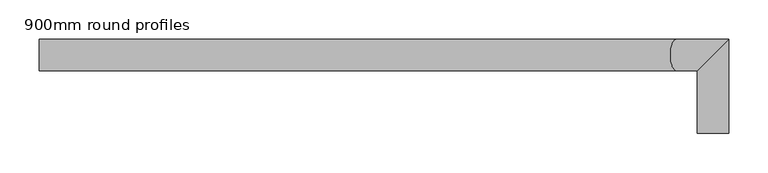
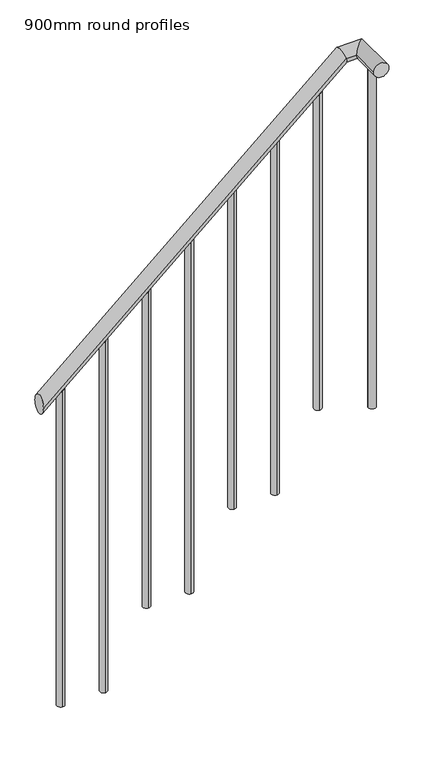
"""IFC4 building model written with IfcOpenShell, lengths in millimetres: railing geometry, 900mm round profiles."""

from ifc_helpers import new_model, si_unit, point, frame, frame_2d, origin, origin_with_axes, place, context, project, spatial, circle_curve, ellipse_curve, trimmed, segment, composite_curve, outline, extrude, source, transform, mapped, element, save
from ifc_brep_helpers import plane_surface, cylinder_surface, advanced_brep


def railing_900mm_round_profiles_b70d091b(model_context):
    return source(origin(), model_context, "Body", "SolidModel", [
        advanced_brep(
        [(7110.0, 5880.0, 273.4960858), (7110.0, 5840.0, 273.4960858), (7922.4795013, 5880.0, 980.0), (7922.4795013, 5840.0, 980.0), (7990.0, 5880.0, 980.0), (7950.0, 5840.0, 980.0), (7990.0, 5760.0, 980.0), (7950.0, 5760.0, 980.0)],
        [
            (0, 1, ellipse_curve(frame((7110.0, 5860.0, 273.4960858), z_axis=(-1.0, 0.0, 0.0), x_axis=(0.0, 0.0, -1.0)), 26.5039142, 20.0)),
            (1, 0, ellipse_curve(frame((7110.0, 5860.0, 273.4960858), z_axis=(-1.0, 0.0, 0.0), x_axis=(0.0, 0.0, -1.0)), 26.5039142, 20.0)),
            (0, 2),
            (2, 3, ellipse_curve(frame((7922.4795013, 5860.0, 980.0), z_axis=(-0.9366444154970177, 0.0, -0.3502816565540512), x_axis=(0.35028165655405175, 0.0, -0.9366444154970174)), 21.3528204, 20.0)),
            (3, 1),
            (3, 2, ellipse_curve(frame((7922.4795013, 5860.0, 980.0), z_axis=(-0.9366444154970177, 0.0, -0.3502816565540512), x_axis=(0.35028165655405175, 0.0, -0.9366444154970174)), 21.3528204, 20.0)),
            (2, 4),
            (4, 5, ellipse_curve(frame((7970.0, 5860.0, 980.0), z_axis=(-0.7071067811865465, 0.7071067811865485, 0.0), x_axis=(-0.7071067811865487, -0.7071067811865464, 0.0)), 28.2842712, 20.0)),
            (5, 3),
            (5, 4, ellipse_curve(frame((7970.0, 5860.0, 980.0), z_axis=(-0.7071067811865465, 0.7071067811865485, 0.0), x_axis=(-0.7071067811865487, -0.7071067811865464, 0.0)), 28.2842712, 20.0)),
            (6, 7, circle_curve(frame((7970.0, 5760.0, 980.0), z_axis=(0.0, -1.0, 0.0), x_axis=(-1.0, 0.0, 0.0)), 20.0)),
            (7, 6, circle_curve(frame((7970.0, 5760.0, 980.0), z_axis=(0.0, -1.0, 0.0), x_axis=(-1.0, 0.0, 0.0)), 20.0)),
            (4, 6),
            (7, 5),
        ],
        [
            plane_surface(frame((7110.0, 5860.0, 300.0), z_axis=(-1.0, 0.0, 0.0), x_axis=(0.0, 1.0, 0.0))),
            cylinder_surface(frame((7123.1235743, 5860.0, 284.9078896), z_axis=(-0.7546055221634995, 0.0, -0.6561787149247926), x_axis=(0.0, -1.0, 0.0)), 20.0),
            cylinder_surface(frame((7915.0, 5860.0, 980.0), z_axis=(-1.0, 0.0, 0.0), x_axis=(0.0, -1.0, 0.0)), 20.0),
            plane_surface(frame((7970.0, 5760.0, 1000.0), z_axis=(0.0, -1.0, 0.0), x_axis=(0.0, 0.0, -1.0))),
            cylinder_surface(frame((7970.0, 5860.0, 980.0), z_axis=(0.0, 1.0, 0.0), x_axis=(-1.0, 0.0, 0.0)), 20.0),
        ],
        [
            (0, [[1, 2]]),
            (1, [[-1, 3, 4, 5]]),
            (1, [[-2, -5, 6, -3]]),
            (2, [[-4, 7, 8, 9]]),
            (2, [[-6, -9, 10, -7]]),
            (3, [[11, 12]]),
            (4, [[-8, 13, -12, 14]]),
            (4, [[-10, -14, -11, -13]]),
        ],
    ),
        extrude(outline(composite_curve([segment(trimmed(circle_curve(frame_2d((7970.0, 5802.5)), 10.0), [point((7980.0, 5802.5))], [point((7960.0, 5802.5))], False, "CARTESIAN"), True, "CONTINUOUS"), segment(trimmed(circle_curve(frame_2d((7970.0, 5802.5)), 10.0), [point((7960.0, 5802.5))], [point((7980.0, 5802.5))], False, "CARTESIAN"), True, "CONTINUOUS")], self_intersect=False)), origin_with_axes(), (0.0, 0.0, 1.0), 960.0),
        advanced_brep(
        [(7857.5, 5850.0, 896.9921716), (7857.5, 5850.0, 0.0), (7857.5, 5870.0, 0.0), (7857.5, 5870.0, 896.9921716)],
        [
            (0, 1),
            (1, 2, circle_curve(frame((7857.5, 5860.0, 0.0), z_axis=(0.0, 0.0, 1.0), x_axis=(0.0, 1.0, 0.0)), 10.0)),
            (2, 3),
            (3, 0, ellipse_curve(frame((7857.5, 5860.0, 896.9921716), z_axis=(0.6561787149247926, 0.0, -0.7546055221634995), x_axis=(0.7546055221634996, 0.0, 0.6561787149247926)), 13.2519571, 10.0)),
            (0, 3, ellipse_curve(frame((7857.5, 5860.0, 896.9921716), z_axis=(0.6561787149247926, 0.0, -0.7546055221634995), x_axis=(0.7546055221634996, 0.0, 0.6561787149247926)), 13.2519571, 10.0)),
            (2, 1, circle_curve(frame((7857.5, 5860.0, 0.0), z_axis=(0.0, 0.0, 1.0), x_axis=(0.0, 1.0, 0.0)), 10.0)),
        ],
        [
            cylinder_surface(frame((7857.5, 5860.0, -100.0), z_axis=(0.0, 0.0, 1.0), x_axis=(0.0, 1.0, 0.0)), 10.0),
            plane_surface(frame((7877.5, 5880.0, 914.383476), z_axis=(-0.6561787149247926, 0.0, 0.7546055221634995), x_axis=(0.0, -1.0, 0.0))),
            plane_surface(frame((7837.5, 5880.0, 0.0), z_axis=(0.0, 0.0, -1.0), x_axis=(0.0, -1.0, 0.0))),
        ],
        [
            (0, [[1, 2, 3, 4]]),
            (0, [[-1, 5, -3, 6]]),
            (1, [[-4, -5]]),
            (2, [[-2, -6]]),
        ],
    ),
        advanced_brep(
        [(7742.5, 5850.0, 796.9921716), (7742.5, 5850.0, -200.0), (7742.5, 5870.0, -200.0), (7742.5, 5870.0, 796.9921716)],
        [
            (0, 1),
            (1, 2, circle_curve(frame((7742.5, 5860.0, -200.0), z_axis=(0.0, 0.0, 1.0), x_axis=(0.0, 1.0, 0.0)), 10.0)),
            (2, 3),
            (3, 0, ellipse_curve(frame((7742.5, 5860.0, 796.9921716), z_axis=(0.6561787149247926, 0.0, -0.7546055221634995), x_axis=(0.7546055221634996, 0.0, 0.6561787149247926)), 13.2519571, 10.0)),
            (0, 3, ellipse_curve(frame((7742.5, 5860.0, 796.9921716), z_axis=(0.6561787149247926, 0.0, -0.7546055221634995), x_axis=(0.7546055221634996, 0.0, 0.6561787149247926)), 13.2519571, 10.0)),
            (2, 1, circle_curve(frame((7742.5, 5860.0, -200.0), z_axis=(0.0, 0.0, 1.0), x_axis=(0.0, 1.0, 0.0)), 10.0)),
        ],
        [
            cylinder_surface(frame((7742.5, 5860.0, -300.0), z_axis=(0.0, 0.0, 1.0), x_axis=(0.0, 1.0, 0.0)), 10.0),
            plane_surface(frame((7762.5, 5880.0, 814.383476), z_axis=(-0.6561787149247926, 0.0, 0.7546055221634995), x_axis=(0.0, -1.0, 0.0))),
            plane_surface(frame((7722.5, 5880.0, -200.0), z_axis=(0.0, 0.0, -1.0), x_axis=(0.0, -1.0, 0.0))),
        ],
        [
            (0, [[1, 2, 3, 4]]),
            (0, [[-1, 5, -3, 6]]),
            (1, [[-4, -5]]),
            (2, [[-2, -6]]),
        ],
    ),
        advanced_brep(
        [(7627.5, 5850.0, 696.9921716), (7627.5, 5850.0, -200.0), (7627.5, 5870.0, -200.0), (7627.5, 5870.0, 696.9921716)],
        [
            (0, 1),
            (1, 2, circle_curve(frame((7627.5, 5860.0, -200.0), z_axis=(0.0, 0.0, 1.0), x_axis=(0.0, 1.0, 0.0)), 10.0)),
            (2, 3),
            (3, 0, ellipse_curve(frame((7627.5, 5860.0, 696.9921716), z_axis=(0.6561787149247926, 0.0, -0.7546055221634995), x_axis=(0.7546055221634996, 0.0, 0.6561787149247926)), 13.2519571, 10.0)),
            (0, 3, ellipse_curve(frame((7627.5, 5860.0, 696.9921716), z_axis=(0.6561787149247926, 0.0, -0.7546055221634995), x_axis=(0.7546055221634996, 0.0, 0.6561787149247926)), 13.2519571, 10.0)),
            (2, 1, circle_curve(frame((7627.5, 5860.0, -200.0), z_axis=(0.0, 0.0, 1.0), x_axis=(0.0, 1.0, 0.0)), 10.0)),
        ],
        [
            cylinder_surface(frame((7627.5, 5860.0, -300.0), z_axis=(0.0, 0.0, 1.0), x_axis=(0.0, 1.0, 0.0)), 10.0),
            plane_surface(frame((7647.5, 5880.0, 714.383476), z_axis=(-0.6561787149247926, 0.0, 0.7546055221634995), x_axis=(0.0, -1.0, 0.0))),
            plane_surface(frame((7607.5, 5880.0, -200.0), z_axis=(0.0, 0.0, -1.0), x_axis=(0.0, -1.0, 0.0))),
        ],
        [
            (0, [[1, 2, 3, 4]]),
            (0, [[-1, 5, -3, 6]]),
            (1, [[-4, -5]]),
            (2, [[-2, -6]]),
        ],
    ),
        advanced_brep(
        [(7512.5, 5850.0, 596.9921716), (7512.5, 5850.0, -400.0), (7512.5, 5870.0, -400.0), (7512.5, 5870.0, 596.9921716)],
        [
            (0, 1),
            (1, 2, circle_curve(frame((7512.5, 5860.0, -400.0), z_axis=(0.0, 0.0, 1.0), x_axis=(0.0, 1.0, 0.0)), 10.0)),
            (2, 3),
            (3, 0, ellipse_curve(frame((7512.5, 5860.0, 596.9921716), z_axis=(0.6561787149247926, 0.0, -0.7546055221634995), x_axis=(0.7546055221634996, 0.0, 0.6561787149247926)), 13.2519571, 10.0)),
            (0, 3, ellipse_curve(frame((7512.5, 5860.0, 596.9921716), z_axis=(0.6561787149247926, 0.0, -0.7546055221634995), x_axis=(0.7546055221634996, 0.0, 0.6561787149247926)), 13.2519571, 10.0)),
            (2, 1, circle_curve(frame((7512.5, 5860.0, -400.0), z_axis=(0.0, 0.0, 1.0), x_axis=(0.0, 1.0, 0.0)), 10.0)),
        ],
        [
            cylinder_surface(frame((7512.5, 5860.0, -500.0), z_axis=(0.0, 0.0, 1.0), x_axis=(0.0, 1.0, 0.0)), 10.0),
            plane_surface(frame((7532.5, 5880.0, 614.383476), z_axis=(-0.6561787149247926, 0.0, 0.7546055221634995), x_axis=(0.0, -1.0, 0.0))),
            plane_surface(frame((7492.5, 5880.0, -400.0), z_axis=(0.0, 0.0, -1.0), x_axis=(0.0, -1.0, 0.0))),
        ],
        [
            (0, [[1, 2, 3, 4]]),
            (0, [[-1, 5, -3, 6]]),
            (1, [[-4, -5]]),
            (2, [[-2, -6]]),
        ],
    ),
        advanced_brep(
        [(7397.5, 5850.0, 496.9921716), (7397.5, 5850.0, -400.0), (7397.5, 5870.0, -400.0), (7397.5, 5870.0, 496.9921716)],
        [
            (0, 1),
            (1, 2, circle_curve(frame((7397.5, 5860.0, -400.0), z_axis=(0.0, 0.0, 1.0), x_axis=(0.0, 1.0, 0.0)), 10.0)),
            (2, 3),
            (3, 0, ellipse_curve(frame((7397.5, 5860.0, 496.9921716), z_axis=(0.6561787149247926, 0.0, -0.7546055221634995), x_axis=(0.7546055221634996, 0.0, 0.6561787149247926)), 13.2519571, 10.0)),
            (0, 3, ellipse_curve(frame((7397.5, 5860.0, 496.9921716), z_axis=(0.6561787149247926, 0.0, -0.7546055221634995), x_axis=(0.7546055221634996, 0.0, 0.6561787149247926)), 13.2519571, 10.0)),
            (2, 1, circle_curve(frame((7397.5, 5860.0, -400.0), z_axis=(0.0, 0.0, 1.0), x_axis=(0.0, 1.0, 0.0)), 10.0)),
        ],
        [
            cylinder_surface(frame((7397.5, 5860.0, -500.0), z_axis=(0.0, 0.0, 1.0), x_axis=(0.0, 1.0, 0.0)), 10.0),
            plane_surface(frame((7417.5, 5880.0, 514.383476), z_axis=(-0.6561787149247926, 0.0, 0.7546055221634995), x_axis=(0.0, -1.0, 0.0))),
            plane_surface(frame((7377.5, 5880.0, -400.0), z_axis=(0.0, 0.0, -1.0), x_axis=(0.0, -1.0, 0.0))),
        ],
        [
            (0, [[1, 2, 3, 4]]),
            (0, [[-1, 5, -3, 6]]),
            (1, [[-4, -5]]),
            (2, [[-2, -6]]),
        ],
    ),
        advanced_brep(
        [(7282.5, 5850.0, 396.9921716), (7282.5, 5850.0, -600.0), (7282.5, 5870.0, -600.0), (7282.5, 5870.0, 396.9921716)],
        [
            (0, 1),
            (1, 2, circle_curve(frame((7282.5, 5860.0, -600.0), z_axis=(0.0, 0.0, 1.0), x_axis=(0.0, 1.0, 0.0)), 10.0)),
            (2, 3),
            (3, 0, ellipse_curve(frame((7282.5, 5860.0, 396.9921716), z_axis=(0.6561787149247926, 0.0, -0.7546055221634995), x_axis=(0.7546055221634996, 0.0, 0.6561787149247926)), 13.2519571, 10.0)),
            (0, 3, ellipse_curve(frame((7282.5, 5860.0, 396.9921716), z_axis=(0.6561787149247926, 0.0, -0.7546055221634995), x_axis=(0.7546055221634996, 0.0, 0.6561787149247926)), 13.2519571, 10.0)),
            (2, 1, circle_curve(frame((7282.5, 5860.0, -600.0), z_axis=(0.0, 0.0, 1.0), x_axis=(0.0, 1.0, 0.0)), 10.0)),
        ],
        [
            cylinder_surface(frame((7282.5, 5860.0, -700.0), z_axis=(0.0, 0.0, 1.0), x_axis=(0.0, 1.0, 0.0)), 10.0),
            plane_surface(frame((7302.5, 5880.0, 414.383476), z_axis=(-0.6561787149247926, 0.0, 0.7546055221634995), x_axis=(0.0, -1.0, 0.0))),
            plane_surface(frame((7262.5, 5880.0, -600.0), z_axis=(0.0, 0.0, -1.0), x_axis=(0.0, -1.0, 0.0))),
        ],
        [
            (0, [[1, 2, 3, 4]]),
            (0, [[-1, 5, -3, 6]]),
            (1, [[-4, -5]]),
            (2, [[-2, -6]]),
        ],
    ),
        advanced_brep(
        [(7167.5, 5850.0, 296.9921716), (7167.5, 5850.0, -600.0), (7167.5, 5870.0, -600.0), (7167.5, 5870.0, 296.9921716)],
        [
            (0, 1),
            (1, 2, circle_curve(frame((7167.5, 5860.0, -600.0), z_axis=(0.0, 0.0, 1.0), x_axis=(0.0, 1.0, 0.0)), 10.0)),
            (2, 3),
            (3, 0, ellipse_curve(frame((7167.5, 5860.0, 296.9921716), z_axis=(0.6561787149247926, 0.0, -0.7546055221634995), x_axis=(0.7546055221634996, 0.0, 0.6561787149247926)), 13.2519571, 10.0)),
            (0, 3, ellipse_curve(frame((7167.5, 5860.0, 296.9921716), z_axis=(0.6561787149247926, 0.0, -0.7546055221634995), x_axis=(0.7546055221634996, 0.0, 0.6561787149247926)), 13.2519571, 10.0)),
            (2, 1, circle_curve(frame((7167.5, 5860.0, -600.0), z_axis=(0.0, 0.0, 1.0), x_axis=(0.0, 1.0, 0.0)), 10.0)),
        ],
        [
            cylinder_surface(frame((7167.5, 5860.0, -700.0), z_axis=(0.0, 0.0, 1.0), x_axis=(0.0, 1.0, 0.0)), 10.0),
            plane_surface(frame((7187.5, 5880.0, 314.383476), z_axis=(-0.6561787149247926, 0.0, 0.7546055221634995), x_axis=(0.0, -1.0, 0.0))),
            plane_surface(frame((7147.5, 5880.0, -600.0), z_axis=(0.0, 0.0, -1.0), x_axis=(0.0, -1.0, 0.0))),
        ],
        [
            (0, [[1, 2, 3, 4]]),
            (0, [[-1, 5, -3, 6]]),
            (1, [[-4, -5]]),
            (2, [[-2, -6]]),
        ],
    ),
    ])


if __name__ == "__main__":
    model = new_model("IFC4")
    model_context = context("Model", 3, world=origin())
    ifc_project = project(units=[si_unit("LENGTHUNIT", "METRE", prefix="MILLI")], contexts=[model_context])
    site = spatial("IfcSite", under=ifc_project)
    building = spatial("IfcBuilding", under=site)
    placement = place(None, origin())
    railing_900mm_round_profiles_shape = railing_900mm_round_profiles_b70d091b(model_context)
    element("IfcRailing", 1, ObjectType="900mm round profiles", at=placement, inside=building, context=model_context, shape_type="MappedRepresentation", body=[
        mapped(railing_900mm_round_profiles_shape, transform((0.0, 0.0, 0.0), x_axis=(1.0, 0.0, 0.0), y_axis=(0.0, 1.0, 0.0), z_axis=(0.0, 0.0, 1.0))),
    ])
    save(model, "model.ifc")
